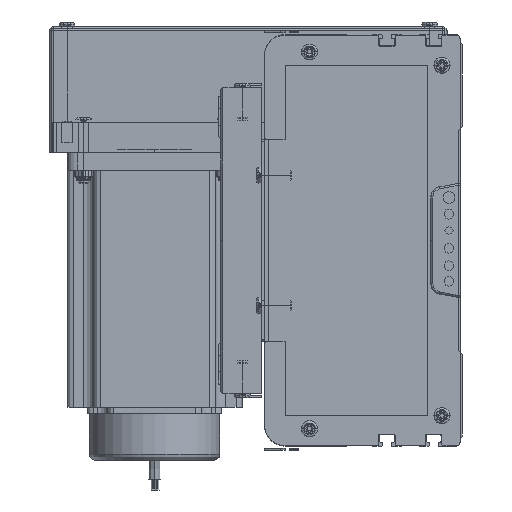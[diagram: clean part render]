
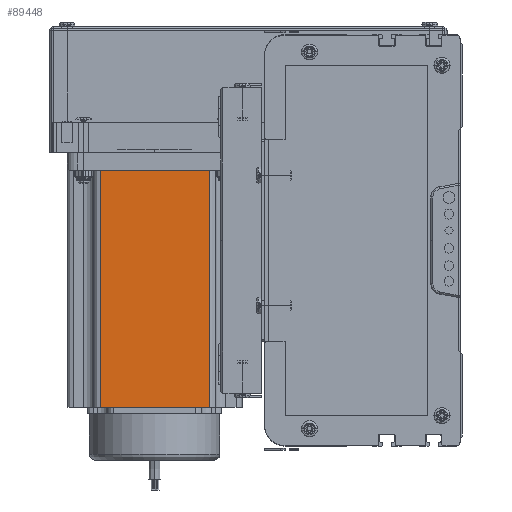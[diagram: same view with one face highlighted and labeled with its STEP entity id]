
A CAD part, left-side view. The second image highlights one B-rep face of the part: STEP entity #89448.
In plain terms, the highlighted planar face has unit normal (-1, 0, 0) as drawn and (0, -1, 0) by its records, which use the part's own axes.
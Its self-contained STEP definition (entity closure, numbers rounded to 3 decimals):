
#50357 = VECTOR ( 'NONE', #50675, 1000. ) ;
#50626 = LINE ( 'NONE', #50676, #50357 ) ;
#50627 = DIRECTION ( 'NONE',  ( 0., 0., -1. ) ) ;
#50628 = VECTOR ( 'NONE', #50627, 1000. ) ;
#50630 = CARTESIAN_POINT ( 'NONE',  ( 16.16, 0., 116.5 ) ) ;
#50631 = LINE ( 'NONE', #50630, #50628 ) ;
#50675 = DIRECTION ( 'NONE',  ( 1., 0., 0. ) ) ;
#50676 = CARTESIAN_POINT ( 'NONE',  ( 0., 0., 0. ) ) ;
#50851 = CARTESIAN_POINT ( 'NONE',  ( 16.16, 0., 0. ) ) ;
#51080 = DIRECTION ( 'NONE',  ( 0., 0., 1. ) ) ;
#51096 = AXIS2_PLACEMENT_3D ( 'NONE', #51301, #51221, #51080 ) ;
#51147 = CARTESIAN_POINT ( 'NONE',  ( 69.74, 0., 0. ) ) ;
#51152 = VECTOR ( 'NONE', #51190, 1000. ) ;
#51183 = LINE ( 'NONE', #51192, #51152 ) ;
#51190 = DIRECTION ( 'NONE',  ( 0., 0., 1. ) ) ;
#51192 = CARTESIAN_POINT ( 'NONE',  ( 69.74, 0., 116.5 ) ) ;
#51193 = DIRECTION ( 'NONE',  ( 1., 0., 0. ) ) ;
#51194 = VECTOR ( 'NONE', #51193, 1000. ) ;
#51196 = CARTESIAN_POINT ( 'NONE',  ( 0., 0., 116.5 ) ) ;
#51200 = CARTESIAN_POINT ( 'NONE',  ( 16.16, 0., 116.5 ) ) ;
#51216 = FACE_OUTER_BOUND ( 'NONE', #89469, .T. ) ;
#51221 = DIRECTION ( 'NONE',  ( 0., 1., 0. ) ) ;
#51269 = PLANE ( 'NONE',  #51096 ) ;
#51301 = CARTESIAN_POINT ( 'NONE',  ( 0., 0., 116.5 ) ) ;
#51308 = LINE ( 'NONE', #51196, #51194 ) ;
#51310 = CARTESIAN_POINT ( 'NONE',  ( 69.74, 0., 116.5 ) ) ;
#89291 = ORIENTED_EDGE ( 'NONE', *, *, #89293, .T. ) ;
#89292 = EDGE_CURVE ( 'NONE', #89454, #89294, #50631, .T. ) ;
#89293 = EDGE_CURVE ( 'NONE', #89294, #89465, #50626, .T. ) ;
#89294 = VERTEX_POINT ( 'NONE', #50851 ) ;
#89446 = ORIENTED_EDGE ( 'NONE', *, *, #89292, .T. ) ;
#89448 = ADVANCED_FACE ( 'NONE', ( #51216 ), #51269, .F. ) ;
#89449 = ORIENTED_EDGE ( 'NONE', *, *, #89453, .F. ) ;
#89450 = ORIENTED_EDGE ( 'NONE', *, *, #89458, .T. ) ;
#89453 = EDGE_CURVE ( 'NONE', #89454, #89457, #51308, .T. ) ;
#89454 = VERTEX_POINT ( 'NONE', #51200 ) ;
#89457 = VERTEX_POINT ( 'NONE', #51310 ) ;
#89458 = EDGE_CURVE ( 'NONE', #89465, #89457, #51183, .T. ) ;
#89465 = VERTEX_POINT ( 'NONE', #51147 ) ;
#89469 = EDGE_LOOP ( 'NONE', ( #89291, #89450, #89449, #89446 ) ) ;
